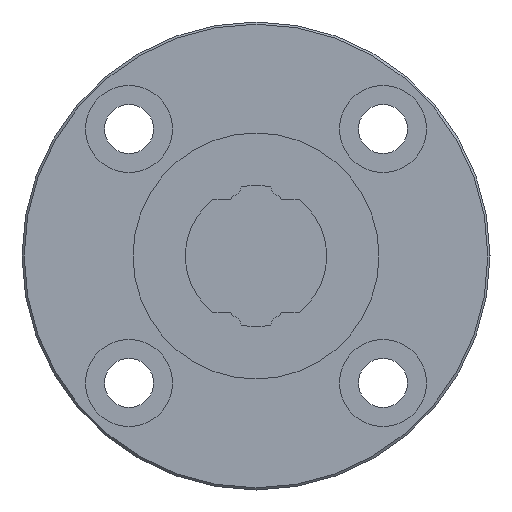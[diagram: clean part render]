
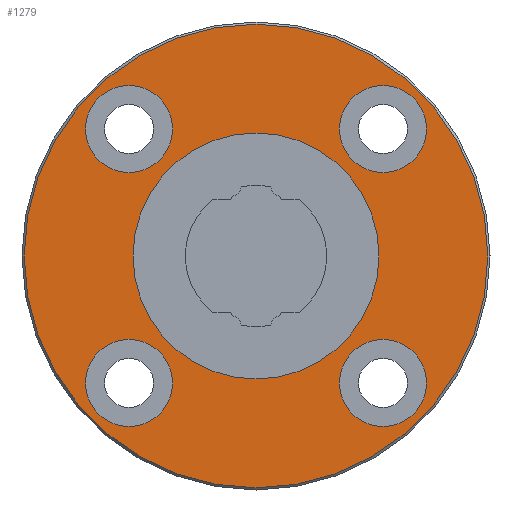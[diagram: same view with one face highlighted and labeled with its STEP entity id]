
A CAD part, left-side view. The second image highlights one B-rep face of the part: STEP entity #1279.
In plain terms, the highlighted planar face has unit normal (-1, 0, 0).
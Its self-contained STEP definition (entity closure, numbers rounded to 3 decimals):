
#48=PLANE('',#1433);
#395=ORIENTED_EDGE('',*,*,#674,.F.);
#396=ORIENTED_EDGE('',*,*,#675,.T.);
#397=ORIENTED_EDGE('',*,*,#676,.T.);
#398=ORIENTED_EDGE('',*,*,#677,.T.);
#399=ORIENTED_EDGE('',*,*,#678,.T.);
#400=ORIENTED_EDGE('',*,*,#673,.T.);
#673=EDGE_CURVE('',#825,#825,#929,.T.);
#674=EDGE_CURVE('',#826,#826,#930,.T.);
#675=EDGE_CURVE('',#827,#827,#931,.T.);
#676=EDGE_CURVE('',#828,#828,#932,.T.);
#677=EDGE_CURVE('',#829,#829,#933,.T.);
#678=EDGE_CURVE('',#830,#830,#934,.T.);
#825=VERTEX_POINT('',#2150);
#826=VERTEX_POINT('',#2153);
#827=VERTEX_POINT('',#2155);
#828=VERTEX_POINT('',#2157);
#829=VERTEX_POINT('',#2159);
#830=VERTEX_POINT('',#2161);
#929=CIRCLE('',#1432,11.3);
#930=CIRCLE('',#1434,21.3);
#931=CIRCLE('',#1435,4.);
#932=CIRCLE('',#1436,4.);
#933=CIRCLE('',#1437,4.);
#934=CIRCLE('',#1438,4.);
#1002=EDGE_LOOP('',(#395));
#1003=EDGE_LOOP('',(#396));
#1004=EDGE_LOOP('',(#397));
#1005=EDGE_LOOP('',(#398));
#1006=EDGE_LOOP('',(#399));
#1007=EDGE_LOOP('',(#400));
#1118=FACE_BOUND('',#1002,.T.);
#1119=FACE_BOUND('',#1003,.T.);
#1120=FACE_BOUND('',#1004,.T.);
#1121=FACE_BOUND('',#1005,.T.);
#1122=FACE_BOUND('',#1006,.T.);
#1123=FACE_BOUND('',#1007,.T.);
#1279=ADVANCED_FACE('',(#1118,#1119,#1120,#1121,#1122,#1123),#48,.F.);
#1432=AXIS2_PLACEMENT_3D('',#2149,#1731,#1732);
#1433=AXIS2_PLACEMENT_3D('',#2151,#1733,#1734);
#1434=AXIS2_PLACEMENT_3D('',#2152,#1735,#1736);
#1435=AXIS2_PLACEMENT_3D('',#2154,#1737,#1738);
#1436=AXIS2_PLACEMENT_3D('',#2156,#1739,#1740);
#1437=AXIS2_PLACEMENT_3D('',#2158,#1741,#1742);
#1438=AXIS2_PLACEMENT_3D('',#2160,#1743,#1744);
#1731=DIRECTION('',(1.,0.,0.));
#1732=DIRECTION('',(0.,0.,-1.));
#1733=DIRECTION('',(1.,0.,0.));
#1734=DIRECTION('',(0.,0.,-1.));
#1735=DIRECTION('',(1.,0.,0.));
#1736=DIRECTION('',(0.,0.,-1.));
#1737=DIRECTION('',(1.,0.,0.));
#1738=DIRECTION('',(0.,0.,-1.));
#1739=DIRECTION('',(1.,0.,0.));
#1740=DIRECTION('',(0.,0.,-1.));
#1741=DIRECTION('',(1.,0.,0.));
#1742=DIRECTION('',(0.,0.,-1.));
#1743=DIRECTION('',(1.,0.,0.));
#1744=DIRECTION('',(0.,0.,-1.));
#2149=CARTESIAN_POINT('',(-12.,0.,0.));
#2150=CARTESIAN_POINT('',(-12.,0.,-11.3));
#2151=CARTESIAN_POINT('',(-12.,11.3,0.));
#2152=CARTESIAN_POINT('',(-12.,0.,0.));
#2153=CARTESIAN_POINT('',(-12.,0.,-21.3));
#2154=CARTESIAN_POINT('',(-12.,-11.667,11.667));
#2155=CARTESIAN_POINT('',(-12.,-11.667,7.667));
#2156=CARTESIAN_POINT('',(-12.,-11.667,-11.667));
#2157=CARTESIAN_POINT('',(-12.,-11.667,-15.667));
#2158=CARTESIAN_POINT('',(-12.,11.667,-11.667));
#2159=CARTESIAN_POINT('',(-12.,11.667,-15.667));
#2160=CARTESIAN_POINT('',(-12.,11.667,11.667));
#2161=CARTESIAN_POINT('',(-12.,11.667,7.667));
